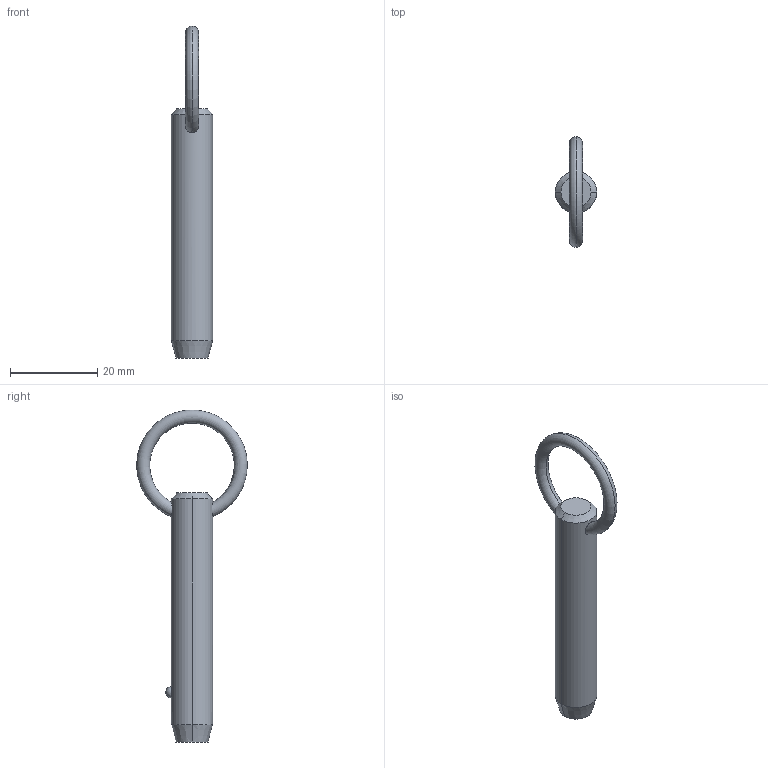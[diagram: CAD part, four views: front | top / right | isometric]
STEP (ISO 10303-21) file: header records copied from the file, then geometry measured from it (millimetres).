
FILE_DESCRIPTION (( 'STEP AP203' ), '1' );
FILE_NAME ('P1250.037-150.step', '2019-07-29T20:00:16', ( '' ), ( '' ), 'SwSTEP 2.0', 'SolidWorks 2017', '' );
FILE_SCHEMA (( 'CONFIG_CONTROL_DESIGN' ));
Length unit declared in the file: millimetre
Products named in the file (1): P1250.037-150
Bounding box: 9.52 x 25.39 x 76.2 mm (x, y, z)
Volume: 4419.1 mm3; surface area: 2351.4 mm2
Topology: 1 solids, 1 shells, 12 faces, 28 edges, 17 vertices
Faces by surface type: cone 4, torus 2, sphere 2, cylinder 2, plane 2
Entity records: 523 total; most frequent: CARTESIAN_POINT 190, DIRECTION 56, ORIENTED_EDGE 48, AXIS2_PLACEMENT_3D 25, EDGE_CURVE 24, EDGE_LOOP 15, VERTEX_POINT 15, FACE_OUTER_BOUND 12
